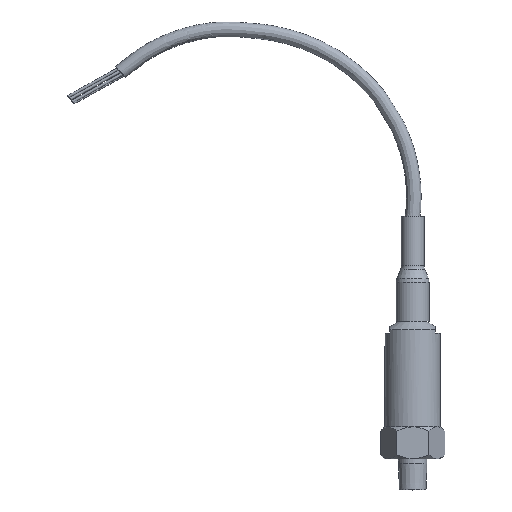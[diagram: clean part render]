
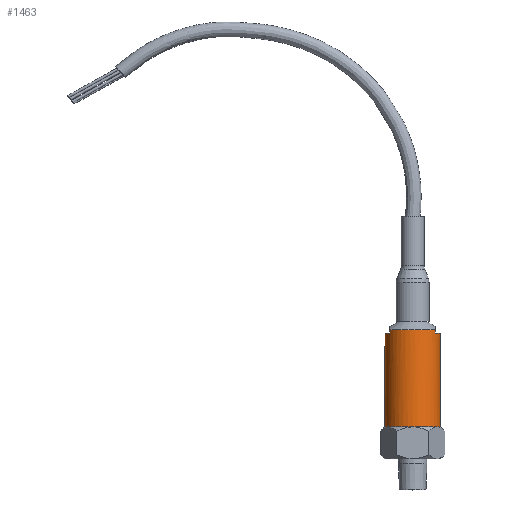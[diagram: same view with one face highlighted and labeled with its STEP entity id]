
A CAD part, top view. The second image highlights one B-rep face of the part: STEP entity #1463.
In plain terms, the highlighted cylindrical face has radius 13.43 mm (diameter 26.861 mm), a full revolution.
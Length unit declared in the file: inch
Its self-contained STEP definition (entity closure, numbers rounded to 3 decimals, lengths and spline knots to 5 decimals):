
#75=CYLINDRICAL_SURFACE('',#1627,0.52875);
#113=LINE('',#2823,#170);
#114=LINE('',#2827,#171);
#115=LINE('',#2831,#172);
#116=LINE('',#2835,#173);
#117=LINE('',#2839,#174);
#170=VECTOR('',#1915,0.52875);
#171=VECTOR('',#1918,0.3937);
#172=VECTOR('',#1921,0.3937);
#173=VECTOR('',#1924,0.3937);
#174=VECTOR('',#1927,0.3937);
#332=FACE_OUTER_BOUND('',#453,.T.);
#453=EDGE_LOOP('',(#1093,#1094,#1095,#1096,#1097,#1098,#1099,#1100,#1101,
#1102,#1103,#1104));
#592=CIRCLE('',#1628,0.52875);
#593=CIRCLE('',#1629,0.52875);
#594=CIRCLE('',#1630,0.52875);
#595=CIRCLE('',#1631,0.52875);
#596=CIRCLE('',#1632,0.52875);
#597=CIRCLE('',#1633,0.52875);
#699=VERTEX_POINT('',#2820);
#700=VERTEX_POINT('',#2822);
#701=VERTEX_POINT('',#2824);
#702=VERTEX_POINT('',#2826);
#703=VERTEX_POINT('',#2828);
#704=VERTEX_POINT('',#2830);
#705=VERTEX_POINT('',#2832);
#706=VERTEX_POINT('',#2834);
#707=VERTEX_POINT('',#2836);
#708=VERTEX_POINT('',#2838);
#842=EDGE_CURVE('',#699,#699,#592,.T.);
#843=EDGE_CURVE('',#699,#700,#113,.T.);
#844=EDGE_CURVE('',#700,#701,#593,.T.);
#845=EDGE_CURVE('',#701,#702,#114,.T.);
#846=EDGE_CURVE('',#702,#703,#594,.T.);
#847=EDGE_CURVE('',#703,#704,#115,.T.);
#848=EDGE_CURVE('',#704,#705,#595,.T.);
#849=EDGE_CURVE('',#705,#706,#116,.T.);
#850=EDGE_CURVE('',#706,#707,#596,.T.);
#851=EDGE_CURVE('',#707,#708,#117,.T.);
#852=EDGE_CURVE('',#708,#700,#597,.T.);
#1093=ORIENTED_EDGE('',*,*,#842,.F.);
#1094=ORIENTED_EDGE('',*,*,#843,.T.);
#1095=ORIENTED_EDGE('',*,*,#844,.T.);
#1096=ORIENTED_EDGE('',*,*,#845,.T.);
#1097=ORIENTED_EDGE('',*,*,#846,.T.);
#1098=ORIENTED_EDGE('',*,*,#847,.T.);
#1099=ORIENTED_EDGE('',*,*,#848,.T.);
#1100=ORIENTED_EDGE('',*,*,#849,.T.);
#1101=ORIENTED_EDGE('',*,*,#850,.T.);
#1102=ORIENTED_EDGE('',*,*,#851,.T.);
#1103=ORIENTED_EDGE('',*,*,#852,.T.);
#1104=ORIENTED_EDGE('',*,*,#843,.F.);
#1463=ADVANCED_FACE('',(#332),#75,.T.);
#1627=AXIS2_PLACEMENT_3D('',#2819,#1911,#1912);
#1628=AXIS2_PLACEMENT_3D('',#2821,#1913,#1914);
#1629=AXIS2_PLACEMENT_3D('',#2825,#1916,#1917);
#1630=AXIS2_PLACEMENT_3D('',#2829,#1919,#1920);
#1631=AXIS2_PLACEMENT_3D('',#2833,#1922,#1923);
#1632=AXIS2_PLACEMENT_3D('',#2837,#1925,#1926);
#1633=AXIS2_PLACEMENT_3D('',#2840,#1928,#1929);
#1911=DIRECTION('center_axis',(0.,-1.,0.));
#1912=DIRECTION('ref_axis',(-1.,0.,0.));
#1913=DIRECTION('center_axis',(0.,-1.,0.));
#1914=DIRECTION('ref_axis',(-1.,0.,0.));
#1915=DIRECTION('',(0.,1.,0.));
#1916=DIRECTION('center_axis',(0.,-1.,0.));
#1917=DIRECTION('ref_axis',(-1.,0.,0.));
#1918=DIRECTION('',(0.,1.,0.));
#1919=DIRECTION('center_axis',(0.,-1.,0.));
#1920=DIRECTION('ref_axis',(-1.,0.,0.));
#1921=DIRECTION('',(0.,-1.,0.));
#1922=DIRECTION('center_axis',(0.,-1.,0.));
#1923=DIRECTION('ref_axis',(-1.,0.,0.));
#1924=DIRECTION('',(0.,1.,0.));
#1925=DIRECTION('center_axis',(0.,-1.,0.));
#1926=DIRECTION('ref_axis',(-1.,0.,0.));
#1927=DIRECTION('',(0.,-1.,0.));
#1928=DIRECTION('center_axis',(0.,-1.,0.));
#1929=DIRECTION('ref_axis',(-1.,0.,0.));
#2819=CARTESIAN_POINT('Origin',(-0.35943,-0.2964,0.));
#2820=CARTESIAN_POINT('',(0.16932,-2.1464,0.));
#2821=CARTESIAN_POINT('Origin',(-0.35943,-2.1464,0.));
#2822=CARTESIAN_POINT('',(0.16932,-0.3594,0.));
#2823=CARTESIAN_POINT('',(0.16932,-0.2964,0.));
#2824=CARTESIAN_POINT('',(0.07332,-0.3594,0.30382));
#2825=CARTESIAN_POINT('Origin',(-0.35943,-0.3594,0.));
#2826=CARTESIAN_POINT('',(0.07332,-0.2964,0.30382));
#2827=CARTESIAN_POINT('',(0.07332,-0.2964,0.30382));
#2828=CARTESIAN_POINT('',(-0.79218,-0.2964,0.30382));
#2829=CARTESIAN_POINT('Origin',(-0.35943,-0.2964,0.));
#2830=CARTESIAN_POINT('',(-0.79218,-0.3594,0.30382));
#2831=CARTESIAN_POINT('',(-0.79218,-0.2964,0.30382));
#2832=CARTESIAN_POINT('',(-0.79218,-0.3594,-0.30382));
#2833=CARTESIAN_POINT('Origin',(-0.35943,-0.3594,0.));
#2834=CARTESIAN_POINT('',(-0.79218,-0.2964,-0.30382));
#2835=CARTESIAN_POINT('',(-0.79218,-0.2964,-0.30382));
#2836=CARTESIAN_POINT('',(0.07332,-0.2964,-0.30382));
#2837=CARTESIAN_POINT('Origin',(-0.35943,-0.2964,0.));
#2838=CARTESIAN_POINT('',(0.07332,-0.3594,-0.30382));
#2839=CARTESIAN_POINT('',(0.07332,-0.2964,-0.30382));
#2840=CARTESIAN_POINT('Origin',(-0.35943,-0.3594,0.));
